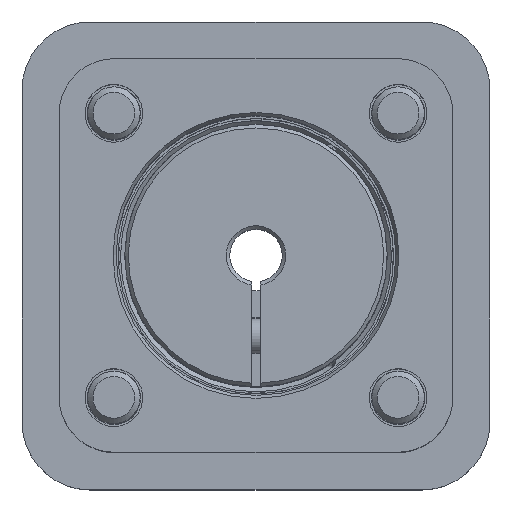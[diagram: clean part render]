
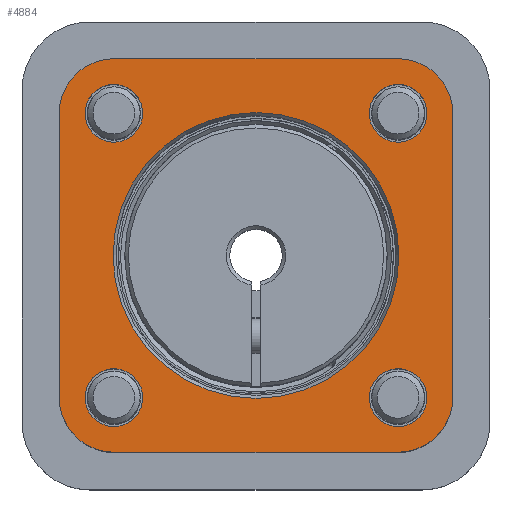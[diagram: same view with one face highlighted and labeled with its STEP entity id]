
A CAD part, top view. The second image highlights one B-rep face of the part: STEP entity #4884.
In plain terms, the highlighted planar face has unit normal (0, 0, 1).
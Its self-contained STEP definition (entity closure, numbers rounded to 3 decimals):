
#148=PLANE('',#5262);
#305=LINE('',#7716,#629);
#308=LINE('',#7724,#632);
#311=LINE('',#7736,#635);
#313=LINE('',#7742,#637);
#629=VECTOR('',#6023,32.5);
#632=VECTOR('',#6032,32.5);
#635=VECTOR('',#6049,32.5);
#637=VECTOR('',#6057,32.5);
#1087=FACE_BOUND('',#1577,.T.);
#1088=FACE_BOUND('',#1578,.T.);
#1089=FACE_BOUND('',#1579,.T.);
#1090=FACE_BOUND('',#1580,.T.);
#1091=FACE_BOUND('',#1581,.T.);
#1243=FACE_OUTER_BOUND('',#1576,.T.);
#1576=EDGE_LOOP('',(#3637,#3638,#3639,#3640,#3641,#3642,#3643,#3644));
#1577=EDGE_LOOP('',(#3645));
#1578=EDGE_LOOP('',(#3646));
#1579=EDGE_LOOP('',(#3647));
#1580=EDGE_LOOP('',(#3648));
#1581=EDGE_LOOP('',(#3649));
#1938=CIRCLE('',#5168,3.3);
#1943=CIRCLE('',#5176,3.3);
#1948=CIRCLE('',#5184,3.3);
#1971=CIRCLE('',#5221,3.3);
#1972=CIRCLE('',#5224,16.346);
#1983=CIRCLE('',#5246,6.25);
#1984=CIRCLE('',#5249,6.25);
#1987=CIRCLE('',#5256,6.25);
#1988=CIRCLE('',#5259,6.25);
#2250=VERTEX_POINT('',#7447);
#2261=VERTEX_POINT('',#7500);
#2272=VERTEX_POINT('',#7553);
#2291=VERTEX_POINT('',#7647);
#2292=VERTEX_POINT('',#7651);
#2311=VERTEX_POINT('',#7708);
#2312=VERTEX_POINT('',#7710);
#2313=VERTEX_POINT('',#7714);
#2314=VERTEX_POINT('',#7718);
#2315=VERTEX_POINT('',#7722);
#2316=VERTEX_POINT('',#7730);
#2317=VERTEX_POINT('',#7734);
#2318=VERTEX_POINT('',#7738);
#2738=EDGE_CURVE('',#2250,#2250,#1938,.T.);
#2749=EDGE_CURVE('',#2261,#2261,#1943,.T.);
#2760=EDGE_CURVE('',#2272,#2272,#1948,.T.);
#2793=EDGE_CURVE('',#2291,#2291,#1971,.T.);
#2794=EDGE_CURVE('',#2292,#2292,#1972,.T.);
#2822=EDGE_CURVE('',#2311,#2312,#1983,.T.);
#2825=EDGE_CURVE('',#2313,#2311,#305,.T.);
#2827=EDGE_CURVE('',#2314,#2313,#1984,.T.);
#2829=EDGE_CURVE('',#2315,#2314,#308,.T.);
#2833=EDGE_CURVE('',#2316,#2315,#1987,.T.);
#2835=EDGE_CURVE('',#2317,#2316,#311,.T.);
#2837=EDGE_CURVE('',#2318,#2317,#1988,.T.);
#2838=EDGE_CURVE('',#2312,#2318,#313,.T.);
#3637=ORIENTED_EDGE('',*,*,#2822,.F.);
#3638=ORIENTED_EDGE('',*,*,#2825,.F.);
#3639=ORIENTED_EDGE('',*,*,#2827,.F.);
#3640=ORIENTED_EDGE('',*,*,#2829,.F.);
#3641=ORIENTED_EDGE('',*,*,#2833,.F.);
#3642=ORIENTED_EDGE('',*,*,#2835,.F.);
#3643=ORIENTED_EDGE('',*,*,#2837,.F.);
#3644=ORIENTED_EDGE('',*,*,#2838,.F.);
#3645=ORIENTED_EDGE('',*,*,#2738,.T.);
#3646=ORIENTED_EDGE('',*,*,#2749,.T.);
#3647=ORIENTED_EDGE('',*,*,#2760,.T.);
#3648=ORIENTED_EDGE('',*,*,#2793,.T.);
#3649=ORIENTED_EDGE('',*,*,#2794,.T.);
#4884=ADVANCED_FACE('',(#1243,#1087,#1088,#1089,#1090,#1091),#148,.T.);
#5168=AXIS2_PLACEMENT_3D('',#7448,#5834,#5835);
#5176=AXIS2_PLACEMENT_3D('',#7501,#5852,#5853);
#5184=AXIS2_PLACEMENT_3D('',#7554,#5870,#5871);
#5221=AXIS2_PLACEMENT_3D('',#7648,#5950,#5951);
#5224=AXIS2_PLACEMENT_3D('',#7652,#5956,#5957);
#5246=AXIS2_PLACEMENT_3D('',#7711,#6017,#6018);
#5249=AXIS2_PLACEMENT_3D('',#7720,#6027,#6028);
#5256=AXIS2_PLACEMENT_3D('',#7732,#6044,#6045);
#5259=AXIS2_PLACEMENT_3D('',#7740,#6053,#6054);
#5262=AXIS2_PLACEMENT_3D('',#7744,#6060,#6061);
#5834=DIRECTION('center_axis',(0.,0.,-1.));
#5835=DIRECTION('ref_axis',(0.,1.,0.));
#5852=DIRECTION('center_axis',(0.,0.,-1.));
#5853=DIRECTION('ref_axis',(0.,1.,0.));
#5870=DIRECTION('center_axis',(0.,0.,-1.));
#5871=DIRECTION('ref_axis',(0.,1.,0.));
#5950=DIRECTION('center_axis',(0.,0.,-1.));
#5951=DIRECTION('ref_axis',(0.,1.,0.));
#5956=DIRECTION('center_axis',(0.,0.,-1.));
#5957=DIRECTION('ref_axis',(1.,0.,0.));
#6017=DIRECTION('center_axis',(0.,0.,-1.));
#6018=DIRECTION('ref_axis',(0.,1.,0.));
#6023=DIRECTION('',(0.,1.,0.));
#6027=DIRECTION('center_axis',(0.,0.,-1.));
#6028=DIRECTION('ref_axis',(-1.,0.,0.));
#6032=DIRECTION('',(-1.,0.,0.));
#6044=DIRECTION('center_axis',(0.,0.,-1.));
#6045=DIRECTION('ref_axis',(0.,-1.,0.));
#6049=DIRECTION('',(0.,-1.,0.));
#6053=DIRECTION('center_axis',(0.,0.,-1.));
#6054=DIRECTION('ref_axis',(1.,0.,0.));
#6057=DIRECTION('',(1.,0.,0.));
#6060=DIRECTION('center_axis',(0.,0.,1.));
#6061=DIRECTION('ref_axis',(1.,0.,0.));
#7447=CARTESIAN_POINT('',(-16.25,-12.95,41.));
#7448=CARTESIAN_POINT('Origin',(-16.25,-16.25,41.));
#7500=CARTESIAN_POINT('',(16.25,-12.95,41.));
#7501=CARTESIAN_POINT('Origin',(16.25,-16.25,41.));
#7553=CARTESIAN_POINT('',(-16.25,19.55,41.));
#7554=CARTESIAN_POINT('Origin',(-16.25,16.25,41.));
#7647=CARTESIAN_POINT('',(16.25,19.55,41.));
#7648=CARTESIAN_POINT('Origin',(16.25,16.25,41.));
#7651=CARTESIAN_POINT('',(16.346,0.,41.));
#7652=CARTESIAN_POINT('Origin',(0.,0.,41.));
#7708=CARTESIAN_POINT('',(-22.5,16.25,41.));
#7710=CARTESIAN_POINT('',(-16.25,22.5,41.));
#7711=CARTESIAN_POINT('Origin',(-16.25,16.25,41.));
#7714=CARTESIAN_POINT('',(-22.5,-16.25,41.));
#7716=CARTESIAN_POINT('',(-22.5,16.25,41.));
#7718=CARTESIAN_POINT('',(-16.25,-22.5,41.));
#7720=CARTESIAN_POINT('Origin',(-16.25,-16.25,41.));
#7722=CARTESIAN_POINT('',(16.25,-22.5,41.));
#7724=CARTESIAN_POINT('',(-16.25,-22.5,41.));
#7730=CARTESIAN_POINT('',(22.5,-16.25,41.));
#7732=CARTESIAN_POINT('Origin',(16.25,-16.25,41.));
#7734=CARTESIAN_POINT('',(22.5,16.25,41.));
#7736=CARTESIAN_POINT('',(22.5,-16.25,41.));
#7738=CARTESIAN_POINT('',(16.25,22.5,41.));
#7740=CARTESIAN_POINT('Origin',(16.25,16.25,41.));
#7742=CARTESIAN_POINT('',(16.25,22.5,41.));
#7744=CARTESIAN_POINT('Origin',(0.,0.,
41.));
